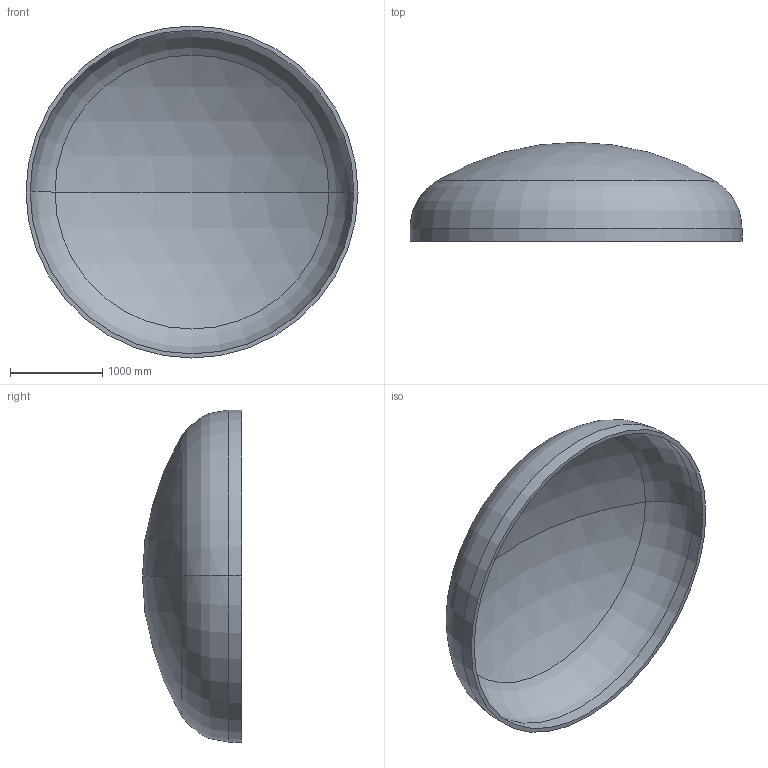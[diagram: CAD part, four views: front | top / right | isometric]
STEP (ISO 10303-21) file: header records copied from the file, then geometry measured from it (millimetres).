
FILE_DESCRIPTION (( 'STEP AP203' ), '1' );
FILE_NAME ('DIN 28013 Korbbogenform_-_Boden DIN 28013 - 3600 x 140 - I - s=45.step', '2016-07-01T20:28:03', ( '' ), ( '' ), 'SwSTEP 2.0', 'SolidWorks 2013', '' );
FILE_SCHEMA (( 'CONFIG_CONTROL_DESIGN' ));
Length unit declared in the file: millimetre
Products named in the file (1): DIN 28013 Korbbogenform_-_Boden DIN 28013 - 3600 x 140 - I - s=45
Bounding box: 3600 x 1073.61 x 3600 mm (x, y, z)
Volume: 694481275 mm3; surface area: 31372640.9 mm2
Topology: 1 solids, 1 shells, 13 faces, 24 edges, 14 vertices
Faces by surface type: torus 4, cylinder 4, sphere 4, plane 1
Entity records: 407 total; most frequent: DIRECTION 72, CARTESIAN_POINT 52, ORIENTED_EDGE 48, AXIS2_PLACEMENT_3D 34, EDGE_CURVE 24, CIRCLE 20, EDGE_LOOP 14, VERTEX_POINT 14
